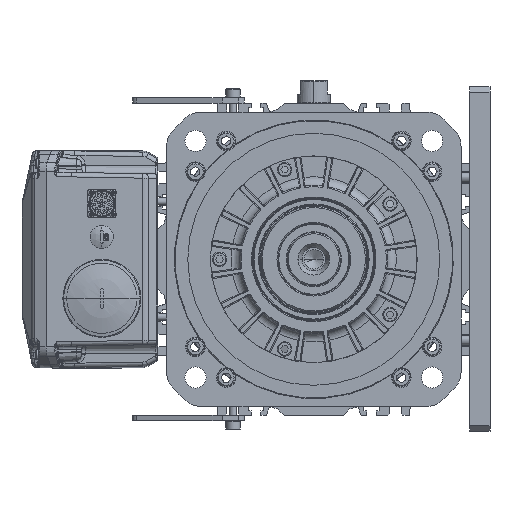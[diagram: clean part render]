
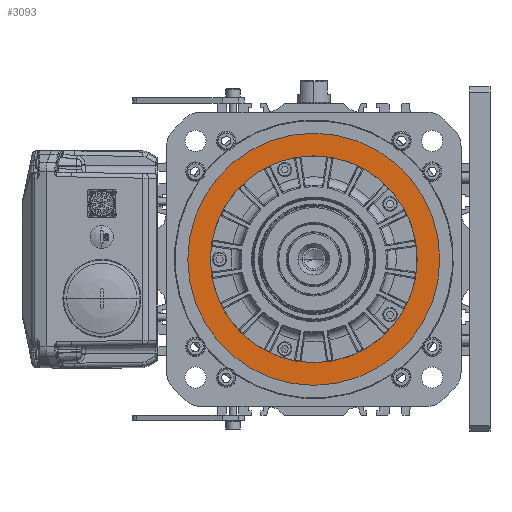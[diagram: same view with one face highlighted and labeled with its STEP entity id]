
A CAD part, left-side view. The second image highlights one B-rep face of the part: STEP entity #3093.
In plain terms, the highlighted planar face has unit normal (-1, 0, 0).
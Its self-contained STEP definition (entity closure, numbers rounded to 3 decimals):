
#1566=CARTESIAN_POINT('',(112.02,0.,0.));
#1567=DIRECTION('',(-1.,0.,0.));
#1568=DIRECTION('',(0.,-1.,0.));
#1569=AXIS2_PLACEMENT_3D('',#1566,#1567,#1568);
#1575=CARTESIAN_POINT('',(112.02,0.,0.));
#1576=DIRECTION('',(1.,0.,0.));
#1577=DIRECTION('',(0.,-1.,0.));
#1578=AXIS2_PLACEMENT_3D('',#1575,#1576,#1577);
#1584=CARTESIAN_POINT('',(112.02,0.,0.));
#1585=DIRECTION('',(-1.,0.,0.));
#1586=DIRECTION('',(0.,-1.,0.));
#1587=AXIS2_PLACEMENT_3D('',#1584,#1585,#1586);
#1589=CARTESIAN_POINT('',(112.02,0.,0.));
#1590=DIRECTION('',(1.,0.,0.));
#1591=DIRECTION('',(0.,-1.,0.));
#1592=AXIS2_PLACEMENT_3D('',#1589,#1590,#1591);
#2689=CARTESIAN_POINT('',(112.02,-92.75,0.));
#2691=VERTEX_POINT('',#2689);
#2693=CARTESIAN_POINT('',(112.02,92.75,0.));
#2695=VERTEX_POINT('',#2693);
#2696=CARTESIAN_POINT('',(112.02,-113.,0.));
#2697=CARTESIAN_POINT('',(112.02,113.,0.));
#2698=VERTEX_POINT('',#2696);
#2699=VERTEX_POINT('',#2697);
#3078=CARTESIAN_POINT('',(112.02,0.,0.));
#3079=DIRECTION('',(-1.,0.,0.));
#3080=DIRECTION('',(0.,-1.,0.));
#3081=AXIS2_PLACEMENT_3D('',#3078,#3079,#3080);
#3082=PLANE('',#3081);
#3083=ORIENTED_EDGE('',*,*,#3072,.T.);
#3084=ORIENTED_EDGE('',*,*,#3058,.F.);
#3085=EDGE_LOOP('',(#3083,#3084));
#3086=FACE_OUTER_BOUND('',#3085,.F.);
#3088=ORIENTED_EDGE('',*,*,#3087,.T.);
#3090=ORIENTED_EDGE('',*,*,#3089,.F.);
#3091=EDGE_LOOP('',(#3088,#3090));
#3092=FACE_BOUND('',#3091,.F.);
#3093=ADVANCED_FACE('',(#3086,#3092),#3082,.T.);
#1570=CIRCLE('',#1569,113.);
#1579=CIRCLE('',#1578,113.);
#1588=CIRCLE('',#1587,92.75);
#1593=CIRCLE('',#1592,92.75);
#3058=EDGE_CURVE('',#2698,#2699,#1570,.T.);
#3072=EDGE_CURVE('',#2698,#2699,#1579,.T.);
#3087=EDGE_CURVE('',#2691,#2695,#1588,.T.);
#3089=EDGE_CURVE('',#2691,#2695,#1593,.T.);
